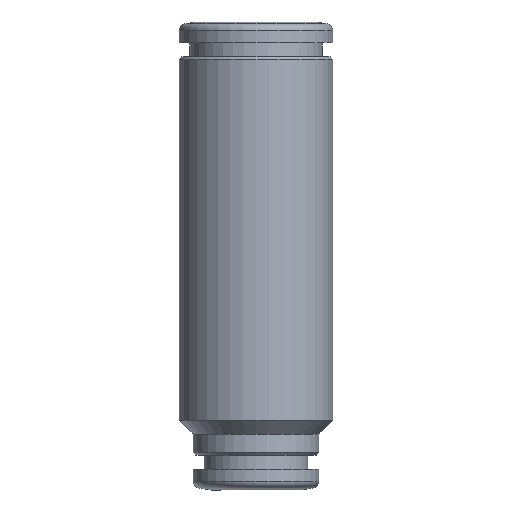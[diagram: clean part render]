
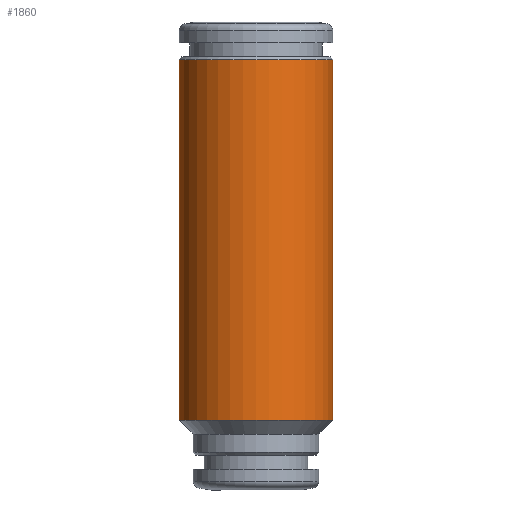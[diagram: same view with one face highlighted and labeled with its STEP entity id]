
A CAD part, front view. The second image highlights one B-rep face of the part: STEP entity #1860.
In plain terms, the highlighted cylindrical face has radius 5.5 mm (diameter 11 mm), a full revolution.
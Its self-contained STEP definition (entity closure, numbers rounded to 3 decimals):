
#1860=ADVANCED_FACE('', (#1870,#1880), #1890, .T.);
#5000=AXIS2_PLACEMENT_3D('Ax2Pl3d', #5010, #5020, #5030);
#5800=AXIS2_PLACEMENT_3D('Ax2Pl3d', #5810, #5820, #5830);
#5840=AXIS2_PLACEMENT_3D('Ax2Pl3d', #5850, #5860, #5870);
#5010=CARTESIAN_POINT('HicPkt', (7.64,4.298,
6.032));
#6530=CARTESIAN_POINT('', (2.14,4.298,6.032));
#5810=CARTESIAN_POINT('HicPkt', (7.64,4.298,
6.032));
#5850=CARTESIAN_POINT('HicPkt', (7.64,4.298,
31.832));
#6640=CARTESIAN_POINT('', (13.14,4.298,31.832));
#7010=CIRCLE('Circle', #5000, 5.5);
#7120=CIRCLE('Circle', #5840, 5.5);
#1890=CYLINDRICAL_SURFACE('Zyl', #5800, 5.5);
#5020=DIRECTION('Axis', (0.,0.,1.));
#5030=DIRECTION('RefDirection', (1.,0.,-0.));
#5820=DIRECTION('Axis', (0.,0.,1.));
#5830=DIRECTION('RefDirection', (1.,0.,-0.));
#5860=DIRECTION('Axis', (0.,0.,1.));
#5870=DIRECTION('RefDirection', (1.,0.,-0.));
#9420=EDGE_CURVE('', #9430, #9430, #7010, .T.);
#9640=EDGE_CURVE('', #9650, #9650, #7120, .T.);
#11420=EDGE_LOOP('Edge_loop', (#11430));
#11440=EDGE_LOOP('Edge_loop', (#11450));
#1880=FACE_BOUND('', #11440, .T.);
#1870=FACE_OUTER_BOUND('Face_outer_bound', #11420, .T.);
#11430=ORIENTED_EDGE('', *, *, #9420, .T.);
#11450=ORIENTED_EDGE('', *, *, #9640, .F.);
#9430=VERTEX_POINT('', #6530);
#9650=VERTEX_POINT('', #6640);
